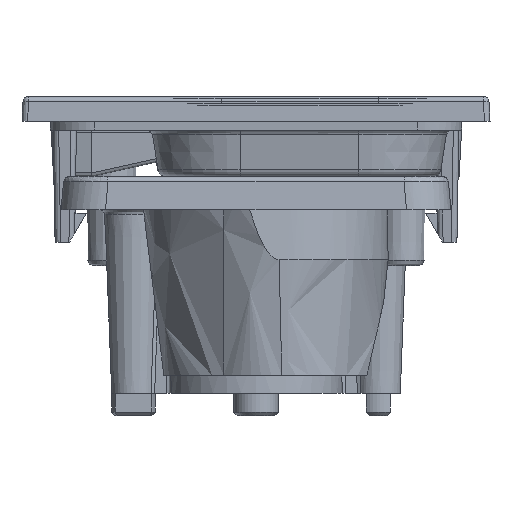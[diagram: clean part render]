
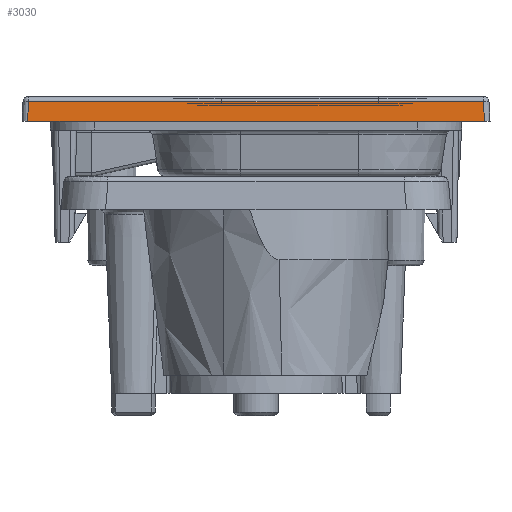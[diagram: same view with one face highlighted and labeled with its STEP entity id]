
A CAD part, left-side view. The second image highlights one B-rep face of the part: STEP entity #3030.
In plain terms, the highlighted planar face has unit normal (-0.999, 0, 0.052).
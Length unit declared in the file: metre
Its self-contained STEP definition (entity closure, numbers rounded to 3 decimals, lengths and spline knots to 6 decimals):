
#3030=ADVANCED_FACE('',(#8958),#8959,.T.);
#8958=FACE_OUTER_BOUND('',#18192,.T.);
#8959=PLANE('',#18193);
#18192=EDGE_LOOP('',(#66201,#66202,#66203,#66204,#66205,#66206,#66207));
#18193=AXIS2_PLACEMENT_3D('',#66208,#66209,#66210);
#66201=ORIENTED_EDGE('',*,*,#91434,.T.);
#66202=ORIENTED_EDGE('',*,*,#91413,.T.);
#66203=ORIENTED_EDGE('',*,*,#91436,.T.);
#66204=ORIENTED_EDGE('',*,*,#91437,.T.);
#66205=ORIENTED_EDGE('',*,*,#91438,.T.);
#66206=ORIENTED_EDGE('',*,*,#91420,.T.);
#66207=ORIENTED_EDGE('',*,*,#91439,.T.);
#66208=CARTESIAN_POINT('',(-0.00975,0.0105,0.010209));
#66209=DIRECTION('',(-0.999,0.,0.052));
#66210=DIRECTION('',(0.052,0.0,0.999));
#91413=EDGE_CURVE('',#101816,#101822,#101824,.T.);
#91420=EDGE_CURVE('',#101835,#101836,#101837,.T.);
#91434=EDGE_CURVE('',#101851,#101816,#101858,.T.);
#91436=EDGE_CURVE('',#101822,#101860,#101861,.F.);
#91437=EDGE_CURVE('',#101860,#101862,#101863,.F.);
#91438=EDGE_CURVE('',#101862,#101835,#101864,.T.);
#91439=EDGE_CURVE('',#101836,#101851,#101865,.T.);
#101816=VERTEX_POINT('',#116815);
#101822=VERTEX_POINT('',#116823);
#101824=B_SPLINE_CURVE_WITH_KNOTS('',1,(#116825,#116826),.UNSPECIFIED.,.F.,.F.,(2,2),(0.0,1.0),.UNSPECIFIED.);
#101835=VERTEX_POINT('',#116841);
#101836=VERTEX_POINT('',#116842);
#101837=LINE('',#116843,#116844);
#101851=VERTEX_POINT('',#116859);
#101858=LINE('',#116869,#116870);
#101860=VERTEX_POINT('',#116872);
#101861=LINE('',#116873,#116874);
#101862=VERTEX_POINT('',#116875);
#101863=LINE('',#116876,#116877);
#101864=LINE('',#116878,#116879);
#101865=LINE('',#116880,#116881);
#116815=CARTESIAN_POINT('',(-0.00975,-0.007248,0.010209));
#116823=CARTESIAN_POINT('',(-0.00975,-0.007266,0.010209));
#116825=CARTESIAN_POINT('',(-0.00975,-0.007248,0.010209));
#116826=CARTESIAN_POINT('',(-0.00975,-0.007266,0.010209));
#116841=CARTESIAN_POINT('',(-0.009704,0.010204,0.011085));
#116842=CARTESIAN_POINT('',(-0.00975,0.01025,0.010209));
#116843=CARTESIAN_POINT('',(-0.009751,0.010251,0.010196));
#116844=VECTOR('',#146362,1.0);
#116859=CARTESIAN_POINT('',(-0.00975,0.007248,0.010209));
#116869=CARTESIAN_POINT('',(-0.00975,-0.009245,0.010209));
#116870=VECTOR('',#146385,1.0);
#116872=CARTESIAN_POINT('',(-0.00975,-0.01025,0.010209));
#116873=CARTESIAN_POINT('',(-0.00975,0.0105,0.010209));
#116874=VECTOR('',#146386,1.0);
#116875=CARTESIAN_POINT('',(-0.009704,-0.010204,0.011085));
#116876=CARTESIAN_POINT('',(-0.009693,-0.010194,0.01129));
#116877=VECTOR('',#146387,1.0);
#116878=CARTESIAN_POINT('',(-0.009704,0.010192,0.011085));
#116879=VECTOR('',#146388,1.0);
#116880=CARTESIAN_POINT('',(-0.00975,-0.009245,0.010209));
#116881=VECTOR('',#146389,1.0);
#146362=DIRECTION('',(-0.052,0.052,-0.997));
#146385=DIRECTION('',(0.,-1.0,0.0));
#146386=DIRECTION('',(0.,1.0,0.0));
#146387=DIRECTION('',(-0.052,-0.052,-0.997));
#146388=DIRECTION('',(0.,1.0,0.));
#146389=DIRECTION('',(0.,-1.0,0.0));
